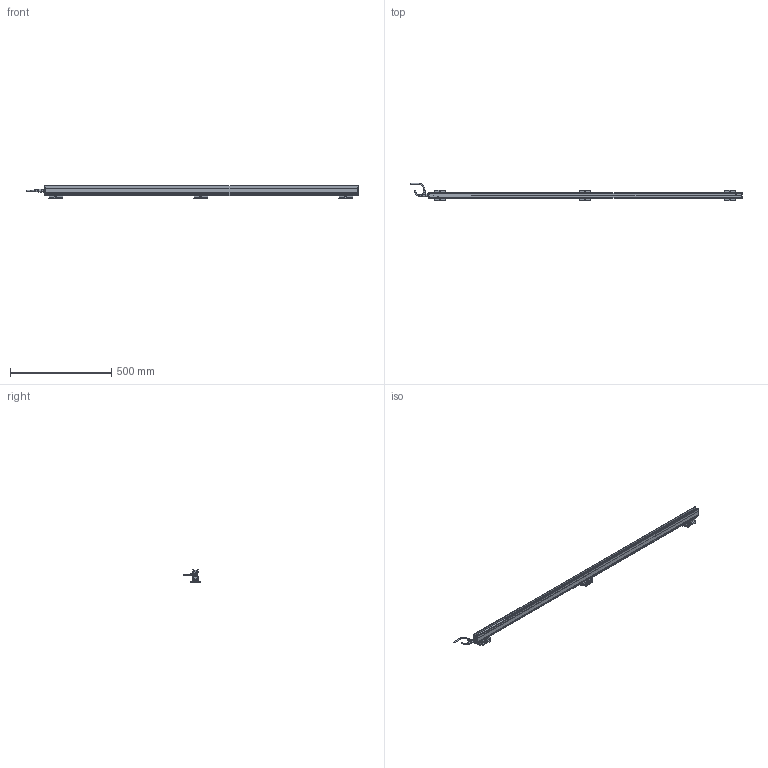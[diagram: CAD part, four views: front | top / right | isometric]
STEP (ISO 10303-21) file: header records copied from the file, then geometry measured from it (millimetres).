
FILE_DESCRIPTION(('Bauteilbeschreibung','HiCAD-Model','HiCAD-STEP-TRANSLATION','Bauteilbeschreibung'),'2;1');
FILE_NAME('PERFORMAXIQEASY_1470-1560_3D.STP','2014-03-05T11:44:06+00:00',('Konstrukteur'),('Konstrukteur Firma GmbH'),' HiCAD 2011, Step 1600.0 ','HiCAD 2011','confidential');
FILE_SCHEMA(('AUTOMOTIVE_DESIGN { 1 2 10303 214 0 1 1 1 }'));
Products named in the file (43): PERFORMAXIQEASY_1470_1560_3D; A_PERFORMAX IQ EASY 1470_1560; A_PERFORMAX IQ EASY SPEED; A_CAP DE; A_CAP CE_5; GROUP; PIN; GROUP0; PIN0; LED_2C_3MM; LED02C03MM; A519020315_CONNECTOR APPLIANCE; A_INSERT; A_CONTACTS; A_HOUSING; A_PROFILE; A_POTTING; A532000100_BRACKET BARS_ MOUNT; A_SIDE PIECE; A0SIDE0PIECE; A_BRACKET SMALL; A_SLIDE PIECE; A5320001000BRACKET0BARS00MOUNT; A0SIDE0PIECE0; A0SIDE0PIECE1; A0BRACKET0SMALL; A0SLIDE0PIECE; A5320001000BRACKET0BARS00MOUNT0; A0SIDE0PIECE2; A0SIDE0PIECE3; A0BRACKET0SMALL0; A0SLIDE0PIECE0; A_CONNECTOR STRAIGHT; EXTRUDED SOLID_0; DRAAD GEBOGEN; REVOLVED SOLID_1; REVOLVED SOLID_3; A_CONNECTOR ANGLED; REVOLVED0SOLID01; EXTRUDED0SOLID00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
Assembly tree (42 placements, depth 5):
  PERFORMAXIQEASY_1470_1560_3D
    A_PERFORMAX IQ EASY 1470_1560
      A_PERFORMAX IQ EASY SPEED
        A_CAP DE
        A_CAP CE_5
        GROUP
          PIN
        GROUP0
          PIN0
        LED_2C_3MM
        LED02C03MM
        A519020315_CONNECTOR APPLIANCE
          A_INSERT
          A_CONTACTS
          A_HOUSING
        A_PROFILE
        A_POTTING
      A532000100_BRACKET BARS_ MOUNT
        A_SIDE PIECE
        A0SIDE0PIECE
        A_BRACKET SMALL
        A_SLIDE PIECE
      A5320001000BRACKET0BARS00MOUNT
        A0SIDE0PIECE0
        A0SIDE0PIECE1
        A0BRACKET0SMALL
        A0SLIDE0PIECE
      A5320001000BRACKET0BARS00MOUNT0
        A0SIDE0PIECE2
        A0SIDE0PIECE3
        A0BRACKET0SMALL0
        A0SLIDE0PIECE0
      A_CONNECTOR STRAIGHT
        EXTRUDED SOLID_0
        DRAAD GEBOGEN
        REVOLVED SOLID_1
        REVOLVED SOLID_3
      A_CONNECTOR ANGLED
        REVOLVED0SOLID01
        EXTRUDED0SOLID00
        C_EDGE SWEEP_0
        REVOLVED SOLID_2
        REVOLVED0SOLID03
Bounding box: 1637.89 x 84.28 x 63.13 mm (x, y, z)
Volume: 1622413.8 mm3; surface area: 411284.7 mm2
Topology: 37 solids, 37 shells, 2679 faces, 6859 edges, 4095 vertices
Faces by surface type: cylinder 1117, plane 1033, sphere 167, torus 158, bspline 128, cone 76
Full cylindrical faces by diameter (mm): 0.8 x10, 1 x5, 2.387 x6, 3 x15, 3.1 x1, 4.2 x2, 5 x4, 5.5 x15, 8 x2, 8.2 x1, 8.4 x2, 8.945 x1, 9 x2, 10.2 x1, 10.5 x3, 11 x1, 12 x3, 12.8 x1, 13.8 x4, 14.5 x3
Entity records: 123325 total; most frequent: CARTESIAN_POINT 28458, DIRECTION 13337, ORIENTED_EDGE 12962, EDGE_CURVE 6481, COLOUR_RGB 6168, PRESENTATION_STYLE_ASSIGNMENT 6168, OVER_RIDING_STYLED_ITEM 6136, CURVE_STYLE 6131
